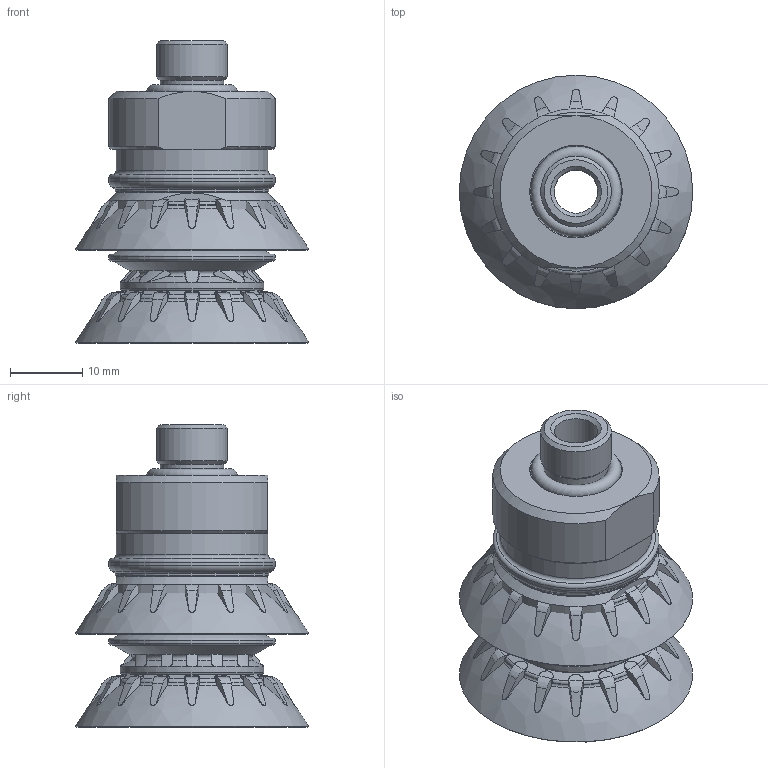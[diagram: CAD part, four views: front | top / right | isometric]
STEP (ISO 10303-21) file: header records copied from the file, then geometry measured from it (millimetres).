
FILE_DESCRIPTION( ( 'Unknown' ), '1' );
FILE_NAME( 'C:/Documents and Settings/Administrator/官帕 拳搁/Magic Cup (Dim)/B2.5/X TYPE/B2.5-20/B2.5-20-X30-N6-A-F2-18M.stp', 'Unknown', ( 'Unknown' ), ( 'Unknown' ), 'XStep 1.0', 'Unknown', ' ' );
FILE_SCHEMA( ( 'automotive_design' ) );
Length unit declared in the file: millimetre
Products named in the file (8): Assem1; Assem2; Assem3; 赤20 STOPPER ; X30(DIM); B2.5-20; 20-18M(DIM); 18M-Oring(DIM)
Bounding box: 32.28 x 32.28 x 41.85 mm (x, y, z)
Volume: 21397.4 mm3; surface area: 29360.5 mm2
Topology: 15 solids, 15 shells, 2052 faces, 5244 edges, 3249 vertices
Faces by surface type: plane 540, cylinder 525, torus 513, cone 279, bspline 195
Full cylindrical faces by diameter (mm): 6 x3, 8.8 x3, 9.8 x6, 11 x3, 11.9 x6, 12.4 x3, 13 x3, 13.4 x3, 14.475 x3, 15 x6, 15.673 x3, 16 x3, 17.5 x3, 19.8 x3, 21 x3, 21.18 x3, 23 x9
Entity records: 28932 total; most frequent: CARTESIAN_POINT 12457, ORIENTED_EDGE 3290, DIRECTION 2563, EDGE_CURVE 1645, AXIS2_PLACEMENT_3D 1140, VERTEX_POINT 1077, B_SPLINE_CURVE_WITH_KNOTS 849, EDGE_LOOP 798
